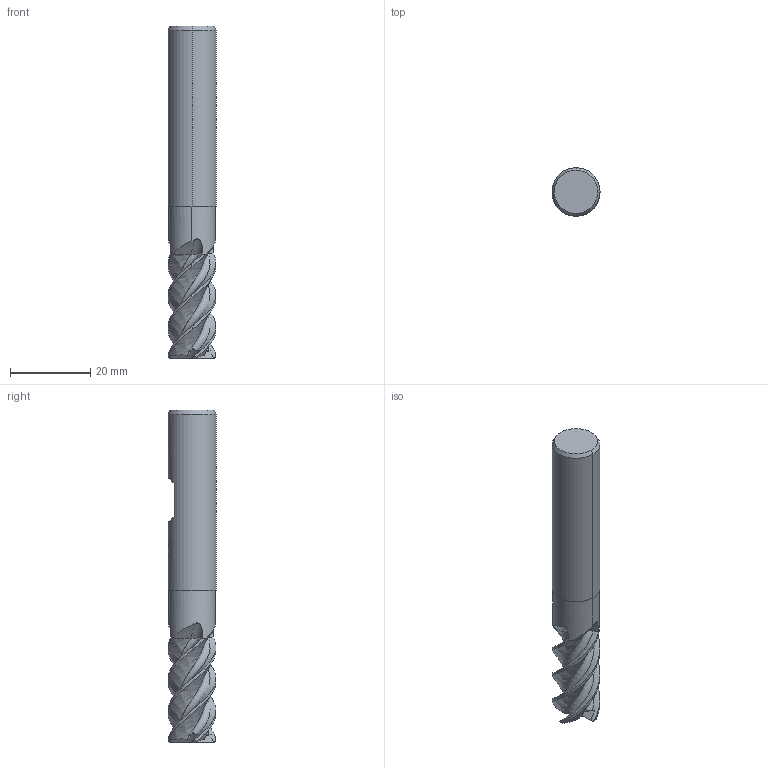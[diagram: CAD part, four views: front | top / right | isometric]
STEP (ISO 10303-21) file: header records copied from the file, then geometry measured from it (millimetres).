
FILE_DESCRIPTION(('no description'),'unknown implementation level');
FILE_NAME('solidB0_8FvxW2Kq_CeaNg5H_IRSTXOY_1.STP',' ',('CIMSOURCE GmbH'),('CADClick - KiM GmbH - www.kimweb.de'),'unknown preprocess','ACIS','unknown authorization');
FILE_SCHEMA(('automotive_design'));
Length unit declared in the file: millimetre
Products named in the file (2): 1; 2
Bounding box: 12 x 12 x 83 mm (x, y, z)
Volume: 7774.8 mm3; surface area: 3659.2 mm2
Topology: 2 solids, 2 shells, 91 faces, 258 edges, 171 vertices
Faces by surface type: plane 34, bspline 16, cone 12, revolution 12, cylinder 11, torus 6
Entity records: 14944 total; most frequent: CARTESIAN_POINT 9907, STYLED_ITEM 522, PRESENTATION_STYLE_ASSIGNMENT 522, COLOUR_RGB 522, ORIENTED_EDGE 516, DIRECTION 329, EDGE_CURVE 258, CURVE_STYLE 258
